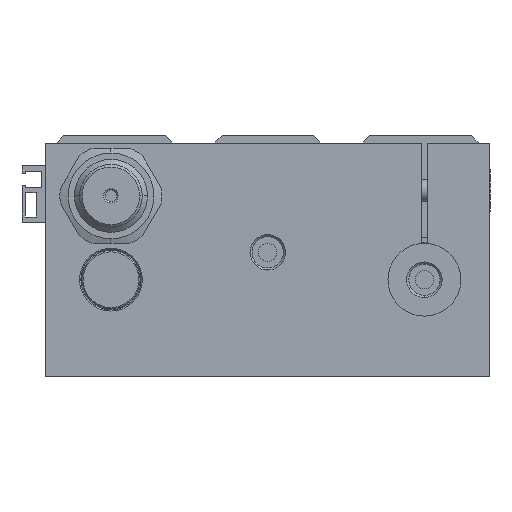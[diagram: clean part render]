
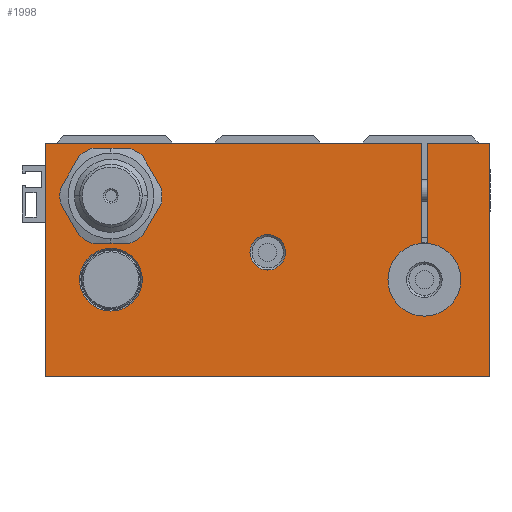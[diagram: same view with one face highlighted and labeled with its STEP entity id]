
A CAD part, left-side view. The second image highlights one B-rep face of the part: STEP entity #1998.
In plain terms, the highlighted planar face has unit normal (-1, 0, 0).
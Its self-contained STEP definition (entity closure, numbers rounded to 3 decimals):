
#59 = LINE ( 'NONE', #7494, #690 ) ;
#67 = EDGE_LOOP ( 'NONE', ( #247, #10265 ) ) ;
#176 = CARTESIAN_POINT ( 'NONE',  ( 0., -42.25, 4.6 ) ) ;
#247 = ORIENTED_EDGE ( 'NONE', *, *, #2131, .F. ) ;
#468 = VECTOR ( 'NONE', #11785, 1000. ) ;
#550 = DIRECTION ( 'NONE',  ( 0., 0., -1. ) ) ;
#551 = AXIS2_PLACEMENT_3D ( 'NONE', #9246, #10080, #849 ) ;
#585 = DIRECTION ( 'NONE',  ( 0., 1., 0. ) ) ;
#690 = VECTOR ( 'NONE', #10986, 1000. ) ;
#829 = DIRECTION ( 'NONE',  ( -1., 0., 0. ) ) ;
#849 = DIRECTION ( 'NONE',  ( 0., 0., 1. ) ) ;
#941 = VECTOR ( 'NONE', #2959, 1000. ) ;
#962 = LINE ( 'NONE', #4600, #9551 ) ;
#972 = CARTESIAN_POINT ( 'NONE',  ( 0., -42.25, 32. ) ) ;
#992 = EDGE_LOOP ( 'NONE', ( #9297, #2571 ) ) ;
#1013 = EDGE_CURVE ( 'NONE', #1293, #5286, #4267, .T. ) ;
#1030 = AXIS2_PLACEMENT_3D ( 'NONE', #11013, #829, #10011 ) ;
#1034 = ORIENTED_EDGE ( 'NONE', *, *, #3906, .T. ) ;
#1164 = FACE_BOUND ( 'NONE', #2921, .T. ) ;
#1211 = ORIENTED_EDGE ( 'NONE', *, *, #9765, .T. ) ;
#1293 = VERTEX_POINT ( 'NONE', #7796 ) ;
#1444 = LINE ( 'NONE', #7161, #9817 ) ;
#1558 = CARTESIAN_POINT ( 'NONE',  ( 0., 0., 6.864 ) ) ;
#1682 = ORIENTED_EDGE ( 'NONE', *, *, #1802, .T. ) ;
#1738 = ORIENTED_EDGE ( 'NONE', *, *, #6900, .F. ) ;
#1802 = EDGE_CURVE ( 'NONE', #9935, #4164, #59, .T. ) ;
#1807 = CIRCLE ( 'NONE', #1030, 8.604 ) ;
#1840 = VERTEX_POINT ( 'NONE', #6591 ) ;
#1909 = ORIENTED_EDGE ( 'NONE', *, *, #6193, .F. ) ;
#1998 = ADVANCED_FACE ( 'NONE', ( #7685, #7954, #1164, #2475, #5144 ), #3106, .F. ) ;
#2131 = EDGE_CURVE ( 'NONE', #3137, #2367, #11867, .T. ) ;
#2225 = EDGE_CURVE ( 'NONE', #2367, #3137, #1807, .T. ) ;
#2367 = VERTEX_POINT ( 'NONE', #8366 ) ;
#2370 = EDGE_CURVE ( 'NONE', #1840, #11748, #10473, .T. ) ;
#2384 = AXIS2_PLACEMENT_3D ( 'NONE', #5800, #2888, #4700 ) ;
#2475 = FACE_BOUND ( 'NONE', #67, .T. ) ;
#2504 = CARTESIAN_POINT ( 'NONE',  ( 0., -61., -32. ) ) ;
#2571 = ORIENTED_EDGE ( 'NONE', *, *, #3560, .F. ) ;
#2888 = DIRECTION ( 'NONE',  ( -1., 0., 0. ) ) ;
#2921 = EDGE_LOOP ( 'NONE', ( #8655, #11080 ) ) ;
#2951 = CARTESIAN_POINT ( 'NONE',  ( 0., -61., 32. ) ) ;
#2959 = DIRECTION ( 'NONE',  ( 0., 1., 0. ) ) ;
#3014 = AXIS2_PLACEMENT_3D ( 'NONE', #6334, #9947, #11706 ) ;
#3047 = DIRECTION ( 'NONE',  ( 0., 0., -1. ) ) ;
#3106 = PLANE ( 'NONE',  #7428 ) ;
#3137 = VERTEX_POINT ( 'NONE', #6461 ) ;
#3153 = AXIS2_PLACEMENT_3D ( 'NONE', #10426, #6751, #7405 ) ;
#3156 = CARTESIAN_POINT ( 'NONE',  ( 0., -43.75, 32. ) ) ;
#3392 = EDGE_CURVE ( 'NONE', #10078, #1293, #6995, .T. ) ;
#3459 = ORIENTED_EDGE ( 'NONE', *, *, #8155, .F. ) ;
#3560 = EDGE_CURVE ( 'NONE', #5062, #11578, #9114, .T. ) ;
#3566 = DIRECTION ( 'NONE',  ( 0., 0., 1. ) ) ;
#3906 = EDGE_CURVE ( 'NONE', #4164, #10078, #9359, .T. ) ;
#3963 = CIRCLE ( 'NONE', #11264, 10. ) ;
#4034 = CIRCLE ( 'NONE', #10160, 10. ) ;
#4131 = DIRECTION ( 'NONE',  ( 0., 0., -1. ) ) ;
#4164 = VERTEX_POINT ( 'NONE', #972 ) ;
#4173 = EDGE_CURVE ( 'NONE', #11578, #5062, #8870, .T. ) ;
#4267 = LINE ( 'NONE', #2504, #468 ) ;
#4380 = DIRECTION ( 'NONE',  ( -1., 0., 0. ) ) ;
#4600 = CARTESIAN_POINT ( 'NONE',  ( 0., -61., 32. ) ) ;
#4688 = VECTOR ( 'NONE', #550, 1000. ) ;
#4700 = DIRECTION ( 'NONE',  ( 0., 0., 1. ) ) ;
#4861 = CARTESIAN_POINT ( 'NONE',  ( 0., 0., 0. ) ) ;
#5062 = VERTEX_POINT ( 'NONE', #8479 ) ;
#5144 = FACE_OUTER_BOUND ( 'NONE', #8185, .T. ) ;
#5281 = CARTESIAN_POINT ( 'NONE',  ( 0., -61., -32. ) ) ;
#5286 = VERTEX_POINT ( 'NONE', #5281 ) ;
#5567 = AXIS2_PLACEMENT_3D ( 'NONE', #9120, #11105, #10142 ) ;
#5629 = CARTESIAN_POINT ( 'NONE',  ( 0., 61., 32. ) ) ;
#5791 = VERTEX_POINT ( 'NONE', #6281 ) ;
#5800 = CARTESIAN_POINT ( 'NONE',  ( 0., 43., 17.5 ) ) ;
#5961 = VERTEX_POINT ( 'NONE', #2951 ) ;
#5973 = LINE ( 'NONE', #8797, #6859 ) ;
#6193 = EDGE_CURVE ( 'NONE', #5791, #6749, #1444, .T. ) ;
#6281 = CARTESIAN_POINT ( 'NONE',  ( 0., -43.75, 4.6 ) ) ;
#6334 = CARTESIAN_POINT ( 'NONE',  ( 0., 43., -5.5 ) ) ;
#6461 = CARTESIAN_POINT ( 'NONE',  ( 0., 43., 3.104 ) ) ;
#6464 = EDGE_LOOP ( 'NONE', ( #10312, #3459 ) ) ;
#6521 = CARTESIAN_POINT ( 'NONE',  ( 0., -43., -5.5 ) ) ;
#6591 = CARTESIAN_POINT ( 'NONE',  ( 0., 43., 29.25 ) ) ;
#6618 = ORIENTED_EDGE ( 'NONE', *, *, #7710, .T. ) ;
#6749 = VERTEX_POINT ( 'NONE', #3156 ) ;
#6751 = DIRECTION ( 'NONE',  ( -1., 0., 0. ) ) ;
#6859 = VECTOR ( 'NONE', #585, 1000. ) ;
#6900 = EDGE_CURVE ( 'NONE', #9935, #5791, #9669, .T. ) ;
#6922 = VERTEX_POINT ( 'NONE', #11600 ) ;
#6957 = CARTESIAN_POINT ( 'NONE',  ( 0., 43., 5.75 ) ) ;
#6995 = LINE ( 'NONE', #8756, #4688 ) ;
#7065 = DIRECTION ( 'NONE',  ( 0., -1., 0. ) ) ;
#7110 = CARTESIAN_POINT ( 'NONE',  ( 0., 61., 32. ) ) ;
#7161 = CARTESIAN_POINT ( 'NONE',  ( 0., -43.75, 0. ) ) ;
#7405 = DIRECTION ( 'NONE',  ( 0., 0., 1. ) ) ;
#7428 = AXIS2_PLACEMENT_3D ( 'NONE', #4861, #8525, #3047 ) ;
#7462 = CARTESIAN_POINT ( 'NONE',  ( 0., -43., 4.5 ) ) ;
#7494 = CARTESIAN_POINT ( 'NONE',  ( 0., -42.25, 0. ) ) ;
#7608 = ORIENTED_EDGE ( 'NONE', *, *, #1013, .T. ) ;
#7685 = FACE_BOUND ( 'NONE', #6464, .T. ) ;
#7710 = EDGE_CURVE ( 'NONE', #5961, #6749, #5973, .T. ) ;
#7796 = CARTESIAN_POINT ( 'NONE',  ( 0., 61., -32. ) ) ;
#7862 = CIRCLE ( 'NONE', #5567, 11.75 ) ;
#7909 = EDGE_CURVE ( 'NONE', #6922, #10210, #4034, .T. ) ;
#7954 = FACE_BOUND ( 'NONE', #992, .T. ) ;
#8155 = EDGE_CURVE ( 'NONE', #11748, #1840, #7862, .T. ) ;
#8185 = EDGE_LOOP ( 'NONE', ( #10427, #7608, #1211, #6618, #1909, #1738, #1682, #1034 ) ) ;
#8366 = CARTESIAN_POINT ( 'NONE',  ( 0., 43., -14.104 ) ) ;
#8479 = CARTESIAN_POINT ( 'NONE',  ( 0., 0., -2.864 ) ) ;
#8525 = DIRECTION ( 'NONE',  ( 1., 0., 0. ) ) ;
#8655 = ORIENTED_EDGE ( 'NONE', *, *, #7909, .F. ) ;
#8756 = CARTESIAN_POINT ( 'NONE',  ( 0., 61., -32. ) ) ;
#8772 = CARTESIAN_POINT ( 'NONE',  ( 0., -43., -5.5 ) ) ;
#8797 = CARTESIAN_POINT ( 'NONE',  ( 0., 61., 32. ) ) ;
#8870 = CIRCLE ( 'NONE', #551, 4.864 ) ;
#9100 = DIRECTION ( 'NONE',  ( 0., 0., 1. ) ) ;
#9114 = CIRCLE ( 'NONE', #3153, 4.864 ) ;
#9120 = CARTESIAN_POINT ( 'NONE',  ( 0., 43., 17.5 ) ) ;
#9246 = CARTESIAN_POINT ( 'NONE',  ( 0., 0., 2. ) ) ;
#9297 = ORIENTED_EDGE ( 'NONE', *, *, #4173, .F. ) ;
#9359 = LINE ( 'NONE', #5629, #941 ) ;
#9551 = VECTOR ( 'NONE', #3566, 1000. ) ;
#9669 = LINE ( 'NONE', #11721, #9770 ) ;
#9765 = EDGE_CURVE ( 'NONE', #5286, #5961, #962, .T. ) ;
#9770 = VECTOR ( 'NONE', #7065, 1000. ) ;
#9817 = VECTOR ( 'NONE', #9100, 1000. ) ;
#9829 = EDGE_CURVE ( 'NONE', #10210, #6922, #3963, .T. ) ;
#9935 = VERTEX_POINT ( 'NONE', #176 ) ;
#9947 = DIRECTION ( 'NONE',  ( -1., 0., 0. ) ) ;
#10011 = DIRECTION ( 'NONE',  ( 0., 0., 1. ) ) ;
#10078 = VERTEX_POINT ( 'NONE', #7110 ) ;
#10080 = DIRECTION ( 'NONE',  ( -1., 0., 0. ) ) ;
#10142 = DIRECTION ( 'NONE',  ( 0., 0., 1. ) ) ;
#10160 = AXIS2_PLACEMENT_3D ( 'NONE', #8772, #4380, #4131 ) ;
#10190 = DIRECTION ( 'NONE',  ( -1., 0., 0. ) ) ;
#10210 = VERTEX_POINT ( 'NONE', #7462 ) ;
#10265 = ORIENTED_EDGE ( 'NONE', *, *, #2225, .F. ) ;
#10312 = ORIENTED_EDGE ( 'NONE', *, *, #2370, .F. ) ;
#10426 = CARTESIAN_POINT ( 'NONE',  ( 0., 0., 2. ) ) ;
#10427 = ORIENTED_EDGE ( 'NONE', *, *, #3392, .T. ) ;
#10473 = CIRCLE ( 'NONE', #2384, 11.75 ) ;
#10986 = DIRECTION ( 'NONE',  ( 0., 0., 1. ) ) ;
#11013 = CARTESIAN_POINT ( 'NONE',  ( 0., 43., -5.5 ) ) ;
#11080 = ORIENTED_EDGE ( 'NONE', *, *, #9829, .F. ) ;
#11105 = DIRECTION ( 'NONE',  ( -1., 0., 0. ) ) ;
#11264 = AXIS2_PLACEMENT_3D ( 'NONE', #6521, #10190, #11890 ) ;
#11578 = VERTEX_POINT ( 'NONE', #1558 ) ;
#11600 = CARTESIAN_POINT ( 'NONE',  ( 0., -43., -15.5 ) ) ;
#11706 = DIRECTION ( 'NONE',  ( 0., 0., 1. ) ) ;
#11721 = CARTESIAN_POINT ( 'NONE',  ( 0., 0., 4.6 ) ) ;
#11748 = VERTEX_POINT ( 'NONE', #6957 ) ;
#11785 = DIRECTION ( 'NONE',  ( 0., -1., 0. ) ) ;
#11867 = CIRCLE ( 'NONE', #3014, 8.604 ) ;
#11890 = DIRECTION ( 'NONE',  ( 0., 0., -1. ) ) ;
